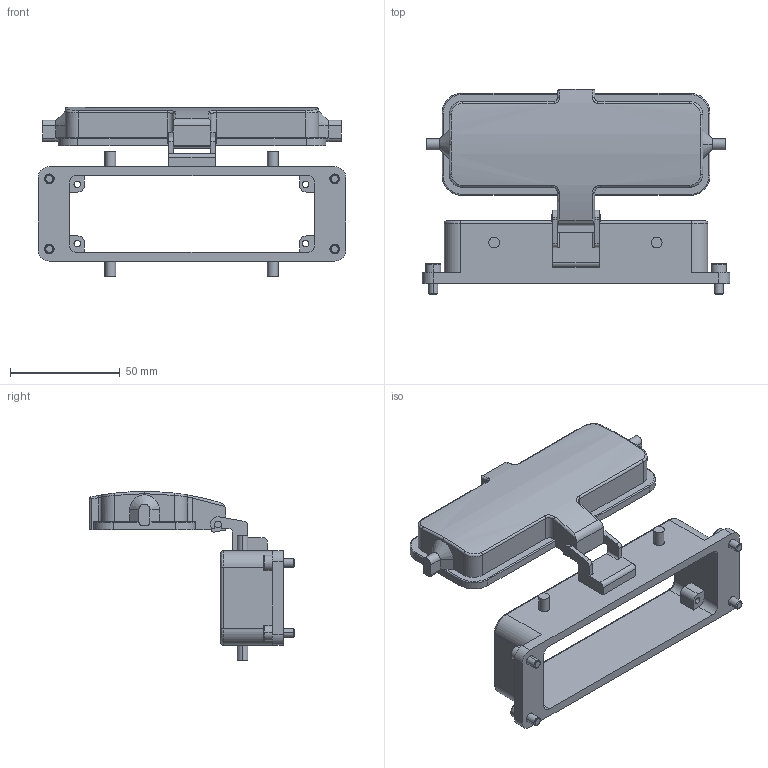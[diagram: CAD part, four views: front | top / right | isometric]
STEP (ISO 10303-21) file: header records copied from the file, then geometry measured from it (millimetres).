
FILE_DESCRIPTION (( 'STEP AP214' ), '1' );
FILE_NAME ('E2714_24B.STEP', '2013-04-05T07:43:54', ( '' ), ( '' ), 'SwSTEP 2.0', 'SolidWorks 2012', '' );
FILE_SCHEMA (( 'AUTOMOTIVE_DESIGN' ));
Length unit declared in the file: millimetre
Products named in the file (3): E1200_4x10; E2714_24B
Assembly tree (5 placements, depth 2):
  E2714_24B
    E2714_24B
    E1200_4x10  x4
Bounding box: 140 x 93.3 x 77 mm (x, y, z)
Volume: 68973.6 mm3; surface area: 46290.6 mm2
Topology: 5 solids, 5 shells, 327 faces, 829 edges, 527 vertices
Faces by surface type: plane 145, cylinder 131, bspline 40, cone 11
Entity records: 12718 total; most frequent: CARTESIAN_POINT 2873, ORIENTED_EDGE 1430, DIRECTION 1403, EDGE_CURVE 715, AXIS2_PLACEMENT_3D 494, VERTEX_POINT 455, LINE 415, VECTOR 415
